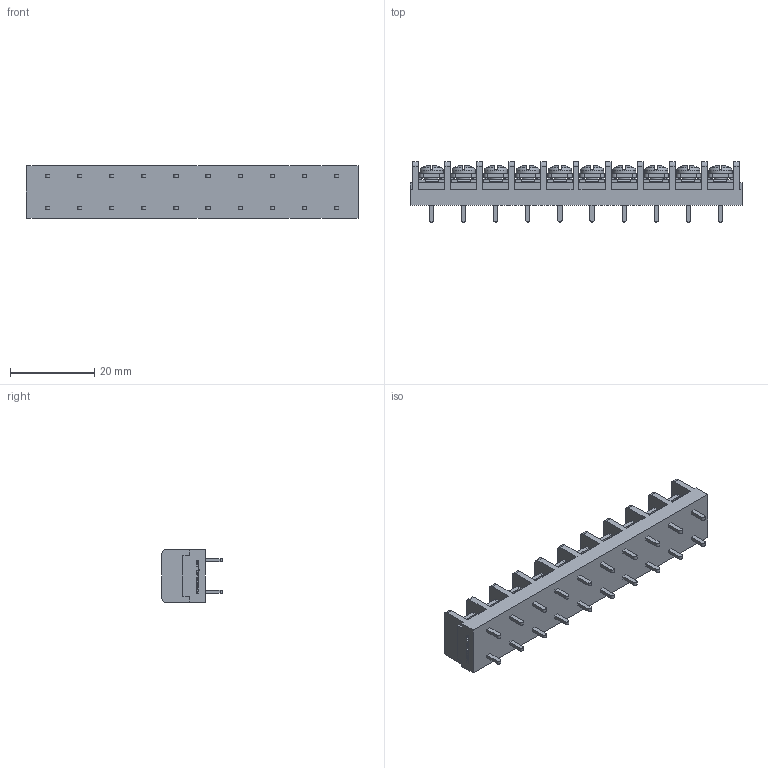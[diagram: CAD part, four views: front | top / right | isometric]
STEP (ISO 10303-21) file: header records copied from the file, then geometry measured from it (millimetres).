
FILE_DESCRIPTION(/* description */ ('Alibre Inc.'),/* implementation_level */ '2;1');
FILE_NAME(/* name */ 'export0',/* time_stamp */ '2015-10-26T18:23:43+09:00',/* author */ (''),/* organization */ (''),/* preprocessor_version */ 'ST-DEVELOPER v14',/* originating_system */ 'Alibre',/* authorisation */ '');
FILE_SCHEMA (('CONFIG_CONTROL_DESIGN'));
Length unit declared in the file: centimetre
Products named in the file (1): ID_1
Bounding box: 78.82 x 14.3 x 12.5 mm (x, y, z)
Volume: 7155.6 mm3; surface area: 6567.6 mm2
Topology: 1 solids, 1 shells, 1396 faces, 3812 edges, 2508 vertices
Faces by surface type: plane 1090, cylinder 122, bspline 104, cone 40, torus 20, sphere 20
Full cylindrical faces by diameter (mm): 3 x10, 5.5 x10
Entity records: 41725 total; most frequent: CARTESIAN_POINT 8945, ORIENTED_EDGE 7504, DIRECTION 5206, EDGE_CURVE 3752, VECTOR 2700, LINE 2700, VERTEX_POINT 2488, AXIS2_PLACEMENT_3D 1749
